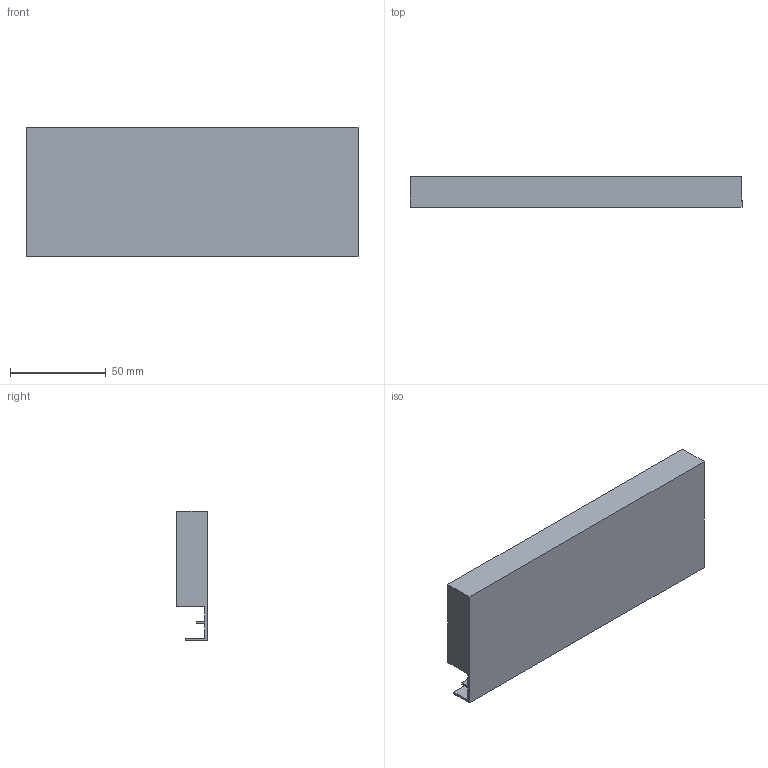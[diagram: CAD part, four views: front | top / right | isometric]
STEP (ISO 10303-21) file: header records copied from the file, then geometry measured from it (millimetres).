
FILE_DESCRIPTION (( 'STEP AP214' ), '1' );
FILE_NAME ('Innenschub-Blendenprofil_KAB300_S18.step', '2010-09-23T12:26:55', ( 'grass' ), ( '' ), 'SwSTEP 2.0', 'SolidWorks 2010', '' );
FILE_SCHEMA (( 'AUTOMOTIVE_DESIGN' ));
Length unit declared in the file: millimetre
Products named in the file (1): Innenschub-Blendenprofil_KAB300_S18
Bounding box: 173 x 15.9 x 67.6 mm (x, y, z)
Volume: 143409.3 mm3; surface area: 35635.6 mm2
Topology: 1 solids, 1 shells, 17 faces, 42 edges, 28 vertices
Faces by surface type: plane 15, cylinder 2
Entity records: 534 total; most frequent: CARTESIAN_POINT 88, ORIENTED_EDGE 84, DIRECTION 82, EDGE_CURVE 42, LINE 38, VECTOR 38, VERTEX_POINT 28, AXIS2_PLACEMENT_3D 22
